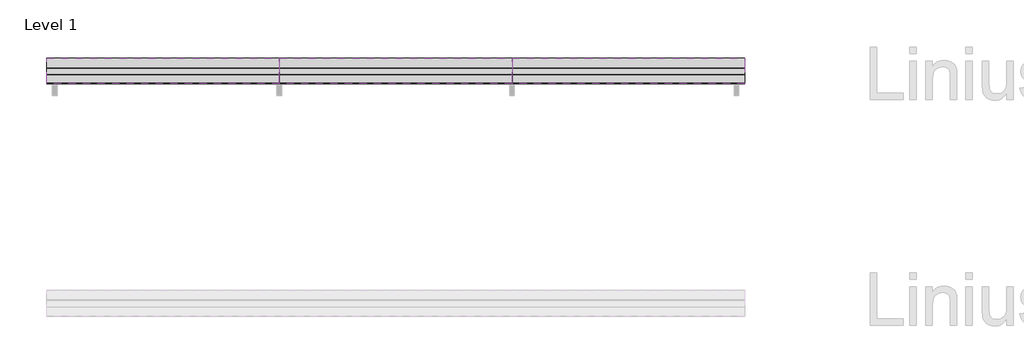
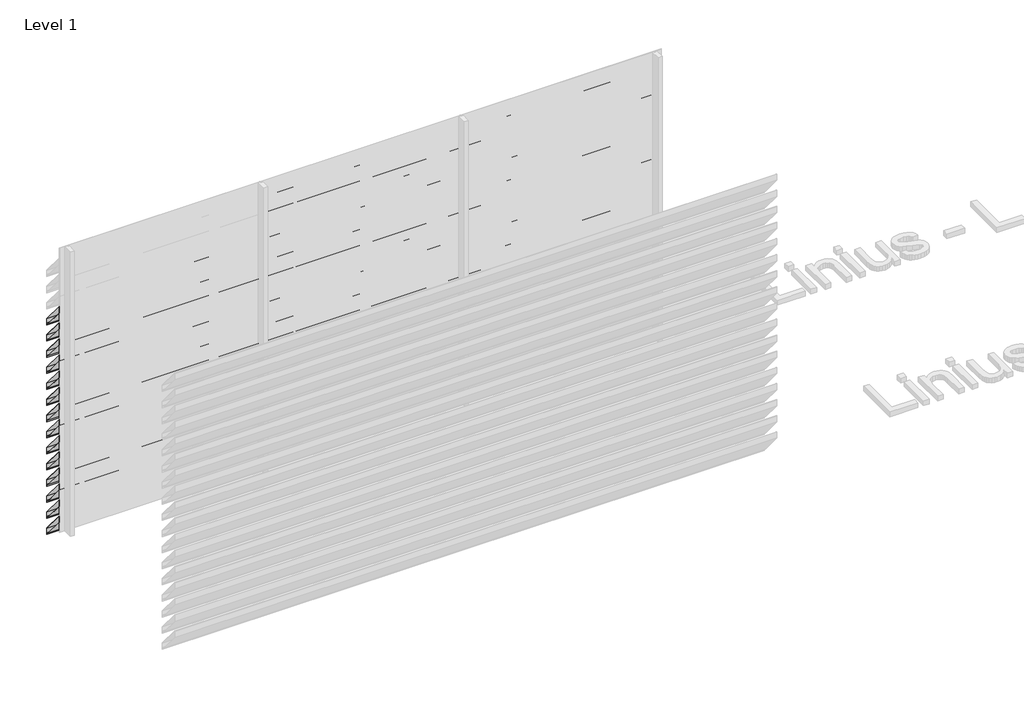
# One storey, part 17 of 121: 48 proxies.
"""IFC4 building model written with IfcOpenShell, lengths in millimetres."""

from ifc_helpers import new_model, si_unit, frame, origin, place, context, project, spatial, polyline, outline, extrude, element, save

model = new_model("IFC4")

# Units and contexts
model_context = context("Model", 3, world=origin())
ifc_project = project(units=[si_unit("LENGTHUNIT", "METRE", prefix="MILLI")], contexts=[model_context])

# Site, building, storey
site = spatial("IfcSite", under=ifc_project)
building = spatial("IfcBuilding", under=site)
storey = spatial("IfcBuildingStorey", under=building, Name="Level 1", Elevation=0.0)

# Proxies
placement = place(None, origin())
element("IfcBuildingElementProxy", 1, Name="Wall Sweeps", at=placement, inside=storey, context=model_context, shape_type="SweptSolid", body=[
    extrude(outline(polyline([(29205.0540136, 2121.0), (29205.0540136, 2052.0), (29202.5540136, 2053.1657691), (29202.5540136, 2066.7059843), (29185.8041465, 2086.6676986), (29175.1189071, 2086.6676986), (28983.0540136, 2315.5617253), (28983.0540136, 2380.0), (28987.7272091, 2380.0), (29205.0540136, 2121.0)]), holes=[polyline([(28986.8412246, 2378.1), (28984.9540136, 2378.1), (28984.9540136, 2316.2532688), (29176.0048916, 2088.5676986), (29186.6901311, 2088.5676986), (29203.1540136, 2068.9468074), (29203.1540136, 2120.3084566), (28986.8412246, 2378.1)])]), frame((466.6208097, 0.0, 0.0), z_axis=(1.0, 0.0, 0.0), x_axis=(0.0, 1.0, 0.0)), (0.0, 0.0, 1.0), 2000.0),
])
element("IfcBuildingElementProxy", 2, Name="Wall Sweeps", at=placement, inside=storey, context=model_context, shape_type="SweptSolid", body=[
    extrude(outline(polyline([(29205.0540136, 1951.0), (29205.0540136, 1882.0), (29202.5540136, 1883.1657691), (29202.5540136, 1896.7059843), (29185.8041465, 1916.6676986), (29175.1189071, 1916.6676986), (28983.0540136, 2145.5617253), (28983.0540136, 2210.0), (28987.7272091, 2210.0), (29205.0540136, 1951.0)]), holes=[polyline([(28986.8412246, 2208.1), (28984.9540136, 2208.1), (28984.9540136, 2146.2532688), (29176.0048916, 1918.5676986), (29186.6901311, 1918.5676986), (29203.1540136, 1898.9468074), (29203.1540136, 1950.3084566), (28986.8412246, 2208.1)])]), frame((466.6208097, 0.0, 0.0), z_axis=(1.0, 0.0, 0.0), x_axis=(0.0, 1.0, 0.0)), (0.0, 0.0, 1.0), 2000.0),
])
element("IfcBuildingElementProxy", 3, Name="Wall Sweeps", at=placement, inside=storey, context=model_context, shape_type="SweptSolid", body=[
    extrude(outline(polyline([(29205.0540136, 1781.0), (29205.0540136, 1712.0), (29202.5540136, 1713.1657691), (29202.5540136, 1726.7059843), (29185.8041465, 1746.6676986), (29175.1189071, 1746.6676986), (28983.0540136, 1975.5617253), (28983.0540136, 2040.0), (28987.7272091, 2040.0), (29205.0540136, 1781.0)]), holes=[polyline([(28986.8412246, 2038.1), (28984.9540136, 2038.1), (28984.9540136, 1976.2532688), (29176.0048916, 1748.5676986), (29186.6901311, 1748.5676986), (29203.1540136, 1728.9468074), (29203.1540136, 1780.3084566), (28986.8412246, 2038.1)])]), frame((466.6208097, 0.0, 0.0), z_axis=(1.0, 0.0, 0.0), x_axis=(0.0, 1.0, 0.0)), (0.0, 0.0, 1.0), 2000.0),
])
element("IfcBuildingElementProxy", 4, Name="Wall Sweeps", at=placement, inside=storey, context=model_context, shape_type="SweptSolid", body=[
    extrude(outline(polyline([(29205.0540136, 1611.0), (29205.0540136, 1542.0), (29202.5540136, 1543.1657691), (29202.5540136, 1556.7059843), (29185.8041465, 1576.6676986), (29175.1189071, 1576.6676986), (28983.0540136, 1805.5617253), (28983.0540136, 1870.0), (28987.7272091, 1870.0), (29205.0540136, 1611.0)]), holes=[polyline([(28986.8412246, 1868.1), (28984.9540136, 1868.1), (28984.9540136, 1806.2532688), (29176.0048916, 1578.5676986), (29186.6901311, 1578.5676986), (29203.1540136, 1558.9468074), (29203.1540136, 1610.3084566), (28986.8412246, 1868.1)])]), frame((466.6208097, 0.0, 0.0), z_axis=(1.0, 0.0, 0.0), x_axis=(0.0, 1.0, 0.0)), (0.0, 0.0, 1.0), 2000.0),
])
element("IfcBuildingElementProxy", 5, Name="Wall Sweeps", at=placement, inside=storey, context=model_context, shape_type="SweptSolid", body=[
    extrude(outline(polyline([(29205.0540136, 1441.0), (29205.0540136, 1372.0), (29202.5540136, 1373.1657691), (29202.5540136, 1386.7059843), (29185.8041465, 1406.6676986), (29175.1189071, 1406.6676986), (28983.0540136, 1635.5617253), (28983.0540136, 1700.0), (28987.7272091, 1700.0), (29205.0540136, 1441.0)]), holes=[polyline([(28986.8412246, 1698.1), (28984.9540136, 1698.1), (28984.9540136, 1636.2532688), (29176.0048916, 1408.5676986), (29186.6901311, 1408.5676986), (29203.1540136, 1388.9468074), (29203.1540136, 1440.3084566), (28986.8412246, 1698.1)])]), frame((466.6208097, 0.0, 0.0), z_axis=(1.0, 0.0, 0.0), x_axis=(0.0, 1.0, 0.0)), (0.0, 0.0, 1.0), 2000.0),
])
element("IfcBuildingElementProxy", 6, Name="Wall Sweeps", at=placement, inside=storey, context=model_context, shape_type="SweptSolid", body=[
    extrude(outline(polyline([(29205.0540136, 1271.0), (29205.0540136, 1202.0), (29202.5540136, 1203.1657691), (29202.5540136, 1216.7059843), (29185.8041465, 1236.6676986), (29175.1189071, 1236.6676986), (28983.0540136, 1465.5617253), (28983.0540136, 1530.0), (28987.7272091, 1530.0), (29205.0540136, 1271.0)]), holes=[polyline([(28986.8412246, 1528.1), (28984.9540136, 1528.1), (28984.9540136, 1466.2532688), (29176.0048916, 1238.5676986), (29186.6901311, 1238.5676986), (29203.1540136, 1218.9468074), (29203.1540136, 1270.3084566), (28986.8412246, 1528.1)])]), frame((466.6208097, 0.0, 0.0), z_axis=(1.0, 0.0, 0.0), x_axis=(0.0, 1.0, 0.0)), (0.0, 0.0, 1.0), 2000.0),
])
element("IfcBuildingElementProxy", 7, Name="Wall Sweeps", at=placement, inside=storey, context=model_context, shape_type="SweptSolid", body=[
    extrude(outline(polyline([(29205.0540136, 1101.0), (29205.0540136, 1032.0), (29202.5540136, 1033.1657691), (29202.5540136, 1046.7059843), (29185.8041465, 1066.6676986), (29175.1189071, 1066.6676986), (28983.0540136, 1295.5617253), (28983.0540136, 1360.0), (28987.7272091, 1360.0), (29205.0540136, 1101.0)]), holes=[polyline([(28986.8412246, 1358.1), (28984.9540136, 1358.1), (28984.9540136, 1296.2532688), (29176.0048916, 1068.5676986), (29186.6901311, 1068.5676986), (29203.1540136, 1048.9468074), (29203.1540136, 1100.3084566), (28986.8412246, 1358.1)])]), frame((466.6208097, 0.0, 0.0), z_axis=(1.0, 0.0, 0.0), x_axis=(0.0, 1.0, 0.0)), (0.0, 0.0, 1.0), 2000.0),
])
element("IfcBuildingElementProxy", 8, Name="Wall Sweeps", at=placement, inside=storey, context=model_context, shape_type="SweptSolid", body=[
    extrude(outline(polyline([(29205.0540136, 931.0), (29205.0540136, 862.0), (29202.5540136, 863.1657691), (29202.5540136, 876.7059843), (29185.8041465, 896.6676986), (29175.1189071, 896.6676986), (28983.0540136, 1125.5617253), (28983.0540136, 1190.0), (28987.7272091, 1190.0), (29205.0540136, 931.0)]), holes=[polyline([(28986.8412246, 1188.1), (28984.9540136, 1188.1), (28984.9540136, 1126.2532688), (29176.0048916, 898.5676986), (29186.6901311, 898.5676986), (29203.1540136, 878.9468074), (29203.1540136, 930.3084566), (28986.8412246, 1188.1)])]), frame((466.6208097, 0.0, 0.0), z_axis=(1.0, 0.0, 0.0), x_axis=(0.0, 1.0, 0.0)), (0.0, 0.0, 1.0), 2000.0),
])
element("IfcBuildingElementProxy", 9, Name="Wall Sweeps", at=placement, inside=storey, context=model_context, shape_type="SweptSolid", body=[
    extrude(outline(polyline([(29205.0540136, 761.0), (29205.0540136, 692.0), (29202.5540136, 693.1657691), (29202.5540136, 706.7059843), (29185.8041465, 726.6676986), (29175.1189071, 726.6676986), (28983.0540136, 955.5617253), (28983.0540136, 1020.0), (28987.7272091, 1020.0), (29205.0540136, 761.0)]), holes=[polyline([(28986.8412246, 1018.1), (28984.9540136, 1018.1), (28984.9540136, 956.2532688), (29176.0048916, 728.5676986), (29186.6901311, 728.5676986), (29203.1540136, 708.9468074), (29203.1540136, 760.3084566), (28986.8412246, 1018.1)])]), frame((466.6208097, 0.0, 0.0), z_axis=(1.0, 0.0, 0.0), x_axis=(0.0, 1.0, 0.0)), (0.0, 0.0, 1.0), 2000.0),
])
element("IfcBuildingElementProxy", 10, Name="Wall Sweeps", at=placement, inside=storey, context=model_context, shape_type="SweptSolid", body=[
    extrude(outline(polyline([(29205.0540136, 591.0), (29205.0540136, 522.0), (29202.5540136, 523.1657691), (29202.5540136, 536.7059843), (29185.8041465, 556.6676986), (29175.1189071, 556.6676986), (28983.0540136, 785.5617253), (28983.0540136, 850.0), (28987.7272091, 850.0), (29205.0540136, 591.0)]), holes=[polyline([(28986.8412246, 848.1), (28984.9540136, 848.1), (28984.9540136, 786.2532688), (29176.0048916, 558.5676986), (29186.6901311, 558.5676986), (29203.1540136, 538.9468074), (29203.1540136, 590.3084566), (28986.8412246, 848.1)])]), frame((466.6208097, 0.0, 0.0), z_axis=(1.0, 0.0, 0.0), x_axis=(0.0, 1.0, 0.0)), (0.0, 0.0, 1.0), 2000.0),
])
element("IfcBuildingElementProxy", 11, Name="Wall Sweeps", at=placement, inside=storey, context=model_context, shape_type="SweptSolid", body=[
    extrude(outline(polyline([(29205.0540136, 421.0), (29205.0540136, 352.0), (29202.5540136, 353.1657691), (29202.5540136, 366.7059843), (29185.8041465, 386.6676986), (29175.1189071, 386.6676986), (28983.0540136, 615.5617253), (28983.0540136, 680.0), (28987.7272091, 680.0), (29205.0540136, 421.0)]), holes=[polyline([(28986.8412246, 678.1), (28984.9540136, 678.1), (28984.9540136, 616.2532688), (29176.0048916, 388.5676986), (29186.6901311, 388.5676986), (29203.1540136, 368.9468074), (29203.1540136, 420.3084566), (28986.8412246, 678.1)])]), frame((466.6208097, 0.0, 0.0), z_axis=(1.0, 0.0, 0.0), x_axis=(0.0, 1.0, 0.0)), (0.0, 0.0, 1.0), 2000.0),
])
element("IfcBuildingElementProxy", 12, Name="Wall Sweeps", at=placement, inside=storey, context=model_context, shape_type="SweptSolid", body=[
    extrude(outline(polyline([(29205.0540136, 251.0), (29205.0540136, 182.0), (29202.5540136, 183.1657691), (29202.5540136, 196.7059843), (29185.8041465, 216.6676986), (29175.1189071, 216.6676986), (28983.0540136, 445.5617253), (28983.0540136, 510.0), (28987.7272091, 510.0), (29205.0540136, 251.0)]), holes=[polyline([(28986.8412246, 508.1), (28984.9540136, 508.1), (28984.9540136, 446.2532688), (29176.0048916, 218.5676986), (29186.6901311, 218.5676986), (29203.1540136, 198.9468074), (29203.1540136, 250.3084566), (28986.8412246, 508.1)])]), frame((466.6208097, 0.0, 0.0), z_axis=(1.0, 0.0, 0.0), x_axis=(0.0, 1.0, 0.0)), (0.0, 0.0, 1.0), 2000.0),
])
element("IfcBuildingElementProxy", 13, Name="Wall Sweeps", at=placement, inside=storey, context=model_context, shape_type="SweptSolid", body=[
    extrude(outline(polyline([(29205.0540136, 81.0), (29205.0540136, 12.0), (29202.5540136, 13.1657691), (29202.5540136, 26.7059843), (29185.8041465, 46.6676986), (29175.1189071, 46.6676986), (28983.0540136, 275.5617253), (28983.0540136, 340.0), (28987.7272091, 340.0), (29205.0540136, 81.0)]), holes=[polyline([(28986.8412246, 338.1), (28984.9540136, 338.1), (28984.9540136, 276.2532688), (29176.0048916, 48.5676986), (29186.6901311, 48.5676986), (29203.1540136, 28.9468074), (29203.1540136, 80.3084566), (28986.8412246, 338.1)])]), frame((466.6208097, 0.0, 0.0), z_axis=(1.0, 0.0, 0.0), x_axis=(0.0, 1.0, 0.0)), (0.0, 0.0, 1.0), 2000.0),
])
element("IfcBuildingElementProxy", 14, Name="Wall Sweeps", at=placement, inside=storey, context=model_context, shape_type="SweptSolid", body=[
    extrude(outline(polyline([(29205.0540136, -89.0), (29205.0540136, -158.0), (29202.5540136, -156.8342309), (29202.5540136, -143.2940157), (29185.8041465, -123.3323014), (29175.1189071, -123.3323014), (28983.0540136, 105.5617253), (28983.0540136, 170.0), (28987.7272091, 170.0), (29205.0540136, -89.0)]), holes=[polyline([(28986.8412246, 168.1), (28984.9540136, 168.1), (28984.9540136, 106.2532688), (29176.0048916, -121.4323014), (29186.6901311, -121.4323014), (29203.1540136, -141.0531926), (29203.1540136, -89.6915434), (28986.8412246, 168.1)])]), frame((466.6208097, 0.0, 0.0), z_axis=(1.0, 0.0, 0.0), x_axis=(0.0, 1.0, 0.0)), (0.0, 0.0, 1.0), 2000.0),
])
element("IfcBuildingElementProxy", 15, Name="Wall Sweeps", at=placement, inside=storey, context=model_context, shape_type="SweptSolid", body=[
    extrude(outline(polyline([(29205.0540136, 2631.0), (29205.0540136, 2562.0), (29202.5540136, 2563.1657691), (29202.5540136, 2576.7059843), (29185.8041465, 2596.6676986), (29175.1189071, 2596.6676986), (28983.0540136, 2825.5617253), (28983.0540136, 2890.0), (28987.7272091, 2890.0), (29205.0540136, 2631.0)]), holes=[polyline([(28986.8412246, 2888.1), (28984.9540136, 2888.1), (28984.9540136, 2826.2532688), (29176.0048916, 2598.5676986), (29186.6901311, 2598.5676986), (29203.1540136, 2578.9468074), (29203.1540136, 2630.3084566), (28986.8412246, 2888.1)])]), frame((2466.6208097, 0.0, 0.0), z_axis=(1.0, 0.0, 0.0), x_axis=(0.0, 1.0, 0.0)), (0.0, 0.0, 1.0), 2000.0),
])
element("IfcBuildingElementProxy", 16, Name="Wall Sweeps", at=placement, inside=storey, context=model_context, shape_type="SweptSolid", body=[
    extrude(outline(polyline([(29205.0540136, 2461.0), (29205.0540136, 2392.0), (29202.5540136, 2393.1657691), (29202.5540136, 2406.7059843), (29185.8041465, 2426.6676986), (29175.1189071, 2426.6676986), (28983.0540136, 2655.5617253), (28983.0540136, 2720.0), (28987.7272091, 2720.0), (29205.0540136, 2461.0)]), holes=[polyline([(28986.8412246, 2718.1), (28984.9540136, 2718.1), (28984.9540136, 2656.2532688), (29176.0048916, 2428.5676986), (29186.6901311, 2428.5676986), (29203.1540136, 2408.9468074), (29203.1540136, 2460.3084566), (28986.8412246, 2718.1)])]), frame((2466.6208097, 0.0, 0.0), z_axis=(1.0, 0.0, 0.0), x_axis=(0.0, 1.0, 0.0)), (0.0, 0.0, 1.0), 2000.0),
])
element("IfcBuildingElementProxy", 17, Name="Wall Sweeps", at=placement, inside=storey, context=model_context, shape_type="SweptSolid", body=[
    extrude(outline(polyline([(29205.0540136, 2291.0), (29205.0540136, 2222.0), (29202.5540136, 2223.1657691), (29202.5540136, 2236.7059843), (29185.8041465, 2256.6676986), (29175.1189071, 2256.6676986), (28983.0540136, 2485.5617253), (28983.0540136, 2550.0), (28987.7272091, 2550.0), (29205.0540136, 2291.0)]), holes=[polyline([(28986.8412246, 2548.1), (28984.9540136, 2548.1), (28984.9540136, 2486.2532688), (29176.0048916, 2258.5676986), (29186.6901311, 2258.5676986), (29203.1540136, 2238.9468074), (29203.1540136, 2290.3084566), (28986.8412246, 2548.1)])]), frame((2466.6208097, 0.0, 0.0), z_axis=(1.0, 0.0, 0.0), x_axis=(0.0, 1.0, 0.0)), (0.0, 0.0, 1.0), 2000.0),
])
element("IfcBuildingElementProxy", 18, Name="Wall Sweeps", at=placement, inside=storey, context=model_context, shape_type="SweptSolid", body=[
    extrude(outline(polyline([(29205.0540136, 2121.0), (29205.0540136, 2052.0), (29202.5540136, 2053.1657691), (29202.5540136, 2066.7059843), (29185.8041465, 2086.6676986), (29175.1189071, 2086.6676986), (28983.0540136, 2315.5617253), (28983.0540136, 2380.0), (28987.7272091, 2380.0), (29205.0540136, 2121.0)]), holes=[polyline([(28986.8412246, 2378.1), (28984.9540136, 2378.1), (28984.9540136, 2316.2532688), (29176.0048916, 2088.5676986), (29186.6901311, 2088.5676986), (29203.1540136, 2068.9468074), (29203.1540136, 2120.3084566), (28986.8412246, 2378.1)])]), frame((2466.6208097, 0.0, 0.0), z_axis=(1.0, 0.0, 0.0), x_axis=(0.0, 1.0, 0.0)), (0.0, 0.0, 1.0), 2000.0),
])
element("IfcBuildingElementProxy", 19, Name="Wall Sweeps", at=placement, inside=storey, context=model_context, shape_type="SweptSolid", body=[
    extrude(outline(polyline([(29205.0540136, 1951.0), (29205.0540136, 1882.0), (29202.5540136, 1883.1657691), (29202.5540136, 1896.7059843), (29185.8041465, 1916.6676986), (29175.1189071, 1916.6676986), (28983.0540136, 2145.5617253), (28983.0540136, 2210.0), (28987.7272091, 2210.0), (29205.0540136, 1951.0)]), holes=[polyline([(28986.8412246, 2208.1), (28984.9540136, 2208.1), (28984.9540136, 2146.2532688), (29176.0048916, 1918.5676986), (29186.6901311, 1918.5676986), (29203.1540136, 1898.9468074), (29203.1540136, 1950.3084566), (28986.8412246, 2208.1)])]), frame((2466.6208097, 0.0, 0.0), z_axis=(1.0, 0.0, 0.0), x_axis=(0.0, 1.0, 0.0)), (0.0, 0.0, 1.0), 2000.0),
])
element("IfcBuildingElementProxy", 20, Name="Wall Sweeps", at=placement, inside=storey, context=model_context, shape_type="SweptSolid", body=[
    extrude(outline(polyline([(29205.0540136, 1781.0), (29205.0540136, 1712.0), (29202.5540136, 1713.1657691), (29202.5540136, 1726.7059843), (29185.8041465, 1746.6676986), (29175.1189071, 1746.6676986), (28983.0540136, 1975.5617253), (28983.0540136, 2040.0), (28987.7272091, 2040.0), (29205.0540136, 1781.0)]), holes=[polyline([(28986.8412246, 2038.1), (28984.9540136, 2038.1), (28984.9540136, 1976.2532688), (29176.0048916, 1748.5676986), (29186.6901311, 1748.5676986), (29203.1540136, 1728.9468074), (29203.1540136, 1780.3084566), (28986.8412246, 2038.1)])]), frame((2466.6208097, 0.0, 0.0), z_axis=(1.0, 0.0, 0.0), x_axis=(0.0, 1.0, 0.0)), (0.0, 0.0, 1.0), 2000.0),
])
element("IfcBuildingElementProxy", 21, Name="Wall Sweeps", at=placement, inside=storey, context=model_context, shape_type="SweptSolid", body=[
    extrude(outline(polyline([(29205.0540136, 1611.0), (29205.0540136, 1542.0), (29202.5540136, 1543.1657691), (29202.5540136, 1556.7059843), (29185.8041465, 1576.6676986), (29175.1189071, 1576.6676986), (28983.0540136, 1805.5617253), (28983.0540136, 1870.0), (28987.7272091, 1870.0), (29205.0540136, 1611.0)]), holes=[polyline([(28986.8412246, 1868.1), (28984.9540136, 1868.1), (28984.9540136, 1806.2532688), (29176.0048916, 1578.5676986), (29186.6901311, 1578.5676986), (29203.1540136, 1558.9468074), (29203.1540136, 1610.3084566), (28986.8412246, 1868.1)])]), frame((2466.6208097, 0.0, 0.0), z_axis=(1.0, 0.0, 0.0), x_axis=(0.0, 1.0, 0.0)), (0.0, 0.0, 1.0), 2000.0),
])
element("IfcBuildingElementProxy", 22, Name="Wall Sweeps", at=placement, inside=storey, context=model_context, shape_type="SweptSolid", body=[
    extrude(outline(polyline([(29205.0540136, 1441.0), (29205.0540136, 1372.0), (29202.5540136, 1373.1657691), (29202.5540136, 1386.7059843), (29185.8041465, 1406.6676986), (29175.1189071, 1406.6676986), (28983.0540136, 1635.5617253), (28983.0540136, 1700.0), (28987.7272091, 1700.0), (29205.0540136, 1441.0)]), holes=[polyline([(28986.8412246, 1698.1), (28984.9540136, 1698.1), (28984.9540136, 1636.2532688), (29176.0048916, 1408.5676986), (29186.6901311, 1408.5676986), (29203.1540136, 1388.9468074), (29203.1540136, 1440.3084566), (28986.8412246, 1698.1)])]), frame((2466.6208097, 0.0, 0.0), z_axis=(1.0, 0.0, 0.0), x_axis=(0.0, 1.0, 0.0)), (0.0, 0.0, 1.0), 2000.0),
])
element("IfcBuildingElementProxy", 23, Name="Wall Sweeps", at=placement, inside=storey, context=model_context, shape_type="SweptSolid", body=[
    extrude(outline(polyline([(29205.0540136, 1271.0), (29205.0540136, 1202.0), (29202.5540136, 1203.1657691), (29202.5540136, 1216.7059843), (29185.8041465, 1236.6676986), (29175.1189071, 1236.6676986), (28983.0540136, 1465.5617253), (28983.0540136, 1530.0), (28987.7272091, 1530.0), (29205.0540136, 1271.0)]), holes=[polyline([(28986.8412246, 1528.1), (28984.9540136, 1528.1), (28984.9540136, 1466.2532688), (29176.0048916, 1238.5676986), (29186.6901311, 1238.5676986), (29203.1540136, 1218.9468074), (29203.1540136, 1270.3084566), (28986.8412246, 1528.1)])]), frame((2466.6208097, 0.0, 0.0), z_axis=(1.0, 0.0, 0.0), x_axis=(0.0, 1.0, 0.0)), (0.0, 0.0, 1.0), 2000.0),
])
element("IfcBuildingElementProxy", 24, Name="Wall Sweeps", at=placement, inside=storey, context=model_context, shape_type="SweptSolid", body=[
    extrude(outline(polyline([(29205.0540136, 1101.0), (29205.0540136, 1032.0), (29202.5540136, 1033.1657691), (29202.5540136, 1046.7059843), (29185.8041465, 1066.6676986), (29175.1189071, 1066.6676986), (28983.0540136, 1295.5617253), (28983.0540136, 1360.0), (28987.7272091, 1360.0), (29205.0540136, 1101.0)]), holes=[polyline([(28986.8412246, 1358.1), (28984.9540136, 1358.1), (28984.9540136, 1296.2532688), (29176.0048916, 1068.5676986), (29186.6901311, 1068.5676986), (29203.1540136, 1048.9468074), (29203.1540136, 1100.3084566), (28986.8412246, 1358.1)])]), frame((2466.6208097, 0.0, 0.0), z_axis=(1.0, 0.0, 0.0), x_axis=(0.0, 1.0, 0.0)), (0.0, 0.0, 1.0), 2000.0),
])
element("IfcBuildingElementProxy", 25, Name="Wall Sweeps", at=placement, inside=storey, context=model_context, shape_type="SweptSolid", body=[
    extrude(outline(polyline([(29205.0540136, 931.0), (29205.0540136, 862.0), (29202.5540136, 863.1657691), (29202.5540136, 876.7059843), (29185.8041465, 896.6676986), (29175.1189071, 896.6676986), (28983.0540136, 1125.5617253), (28983.0540136, 1190.0), (28987.7272091, 1190.0), (29205.0540136, 931.0)]), holes=[polyline([(28986.8412246, 1188.1), (28984.9540136, 1188.1), (28984.9540136, 1126.2532688), (29176.0048916, 898.5676986), (29186.6901311, 898.5676986), (29203.1540136, 878.9468074), (29203.1540136, 930.3084566), (28986.8412246, 1188.1)])]), frame((2466.6208097, 0.0, 0.0), z_axis=(1.0, 0.0, 0.0), x_axis=(0.0, 1.0, 0.0)), (0.0, 0.0, 1.0), 2000.0),
])
element("IfcBuildingElementProxy", 26, Name="Wall Sweeps", at=placement, inside=storey, context=model_context, shape_type="SweptSolid", body=[
    extrude(outline(polyline([(29205.0540136, 761.0), (29205.0540136, 692.0), (29202.5540136, 693.1657691), (29202.5540136, 706.7059843), (29185.8041465, 726.6676986), (29175.1189071, 726.6676986), (28983.0540136, 955.5617253), (28983.0540136, 1020.0), (28987.7272091, 1020.0), (29205.0540136, 761.0)]), holes=[polyline([(28986.8412246, 1018.1), (28984.9540136, 1018.1), (28984.9540136, 956.2532688), (29176.0048916, 728.5676986), (29186.6901311, 728.5676986), (29203.1540136, 708.9468074), (29203.1540136, 760.3084566), (28986.8412246, 1018.1)])]), frame((2466.6208097, 0.0, 0.0), z_axis=(1.0, 0.0, 0.0), x_axis=(0.0, 1.0, 0.0)), (0.0, 0.0, 1.0), 2000.0),
])
element("IfcBuildingElementProxy", 27, Name="Wall Sweeps", at=placement, inside=storey, context=model_context, shape_type="SweptSolid", body=[
    extrude(outline(polyline([(29205.0540136, 591.0), (29205.0540136, 522.0), (29202.5540136, 523.1657691), (29202.5540136, 536.7059843), (29185.8041465, 556.6676986), (29175.1189071, 556.6676986), (28983.0540136, 785.5617253), (28983.0540136, 850.0), (28987.7272091, 850.0), (29205.0540136, 591.0)]), holes=[polyline([(28986.8412246, 848.1), (28984.9540136, 848.1), (28984.9540136, 786.2532688), (29176.0048916, 558.5676986), (29186.6901311, 558.5676986), (29203.1540136, 538.9468074), (29203.1540136, 590.3084566), (28986.8412246, 848.1)])]), frame((2466.6208097, 0.0, 0.0), z_axis=(1.0, 0.0, 0.0), x_axis=(0.0, 1.0, 0.0)), (0.0, 0.0, 1.0), 2000.0),
])
element("IfcBuildingElementProxy", 28, Name="Wall Sweeps", at=placement, inside=storey, context=model_context, shape_type="SweptSolid", body=[
    extrude(outline(polyline([(29205.0540136, 421.0), (29205.0540136, 352.0), (29202.5540136, 353.1657691), (29202.5540136, 366.7059843), (29185.8041465, 386.6676986), (29175.1189071, 386.6676986), (28983.0540136, 615.5617253), (28983.0540136, 680.0), (28987.7272091, 680.0), (29205.0540136, 421.0)]), holes=[polyline([(28986.8412246, 678.1), (28984.9540136, 678.1), (28984.9540136, 616.2532688), (29176.0048916, 388.5676986), (29186.6901311, 388.5676986), (29203.1540136, 368.9468074), (29203.1540136, 420.3084566), (28986.8412246, 678.1)])]), frame((2466.6208097, 0.0, 0.0), z_axis=(1.0, 0.0, 0.0), x_axis=(0.0, 1.0, 0.0)), (0.0, 0.0, 1.0), 2000.0),
])
element("IfcBuildingElementProxy", 29, Name="Wall Sweeps", at=placement, inside=storey, context=model_context, shape_type="SweptSolid", body=[
    extrude(outline(polyline([(29205.0540136, 251.0), (29205.0540136, 182.0), (29202.5540136, 183.1657691), (29202.5540136, 196.7059843), (29185.8041465, 216.6676986), (29175.1189071, 216.6676986), (28983.0540136, 445.5617253), (28983.0540136, 510.0), (28987.7272091, 510.0), (29205.0540136, 251.0)]), holes=[polyline([(28986.8412246, 508.1), (28984.9540136, 508.1), (28984.9540136, 446.2532688), (29176.0048916, 218.5676986), (29186.6901311, 218.5676986), (29203.1540136, 198.9468074), (29203.1540136, 250.3084566), (28986.8412246, 508.1)])]), frame((2466.6208097, 0.0, 0.0), z_axis=(1.0, 0.0, 0.0), x_axis=(0.0, 1.0, 0.0)), (0.0, 0.0, 1.0), 2000.0),
])
element("IfcBuildingElementProxy", 30, Name="Wall Sweeps", at=placement, inside=storey, context=model_context, shape_type="SweptSolid", body=[
    extrude(outline(polyline([(29205.0540136, 81.0), (29205.0540136, 12.0), (29202.5540136, 13.1657691), (29202.5540136, 26.7059843), (29185.8041465, 46.6676986), (29175.1189071, 46.6676986), (28983.0540136, 275.5617253), (28983.0540136, 340.0), (28987.7272091, 340.0), (29205.0540136, 81.0)]), holes=[polyline([(28986.8412246, 338.1), (28984.9540136, 338.1), (28984.9540136, 276.2532688), (29176.0048916, 48.5676986), (29186.6901311, 48.5676986), (29203.1540136, 28.9468074), (29203.1540136, 80.3084566), (28986.8412246, 338.1)])]), frame((2466.6208097, 0.0, 0.0), z_axis=(1.0, 0.0, 0.0), x_axis=(0.0, 1.0, 0.0)), (0.0, 0.0, 1.0), 2000.0),
])
element("IfcBuildingElementProxy", 31, Name="Wall Sweeps", at=placement, inside=storey, context=model_context, shape_type="SweptSolid", body=[
    extrude(outline(polyline([(29205.0540136, -89.0), (29205.0540136, -158.0), (29202.5540136, -156.8342309), (29202.5540136, -143.2940157), (29185.8041465, -123.3323014), (29175.1189071, -123.3323014), (28983.0540136, 105.5617253), (28983.0540136, 170.0), (28987.7272091, 170.0), (29205.0540136, -89.0)]), holes=[polyline([(28986.8412246, 168.1), (28984.9540136, 168.1), (28984.9540136, 106.2532688), (29176.0048916, -121.4323014), (29186.6901311, -121.4323014), (29203.1540136, -141.0531926), (29203.1540136, -89.6915434), (28986.8412246, 168.1)])]), frame((2466.6208097, 0.0, 0.0), z_axis=(1.0, 0.0, 0.0), x_axis=(0.0, 1.0, 0.0)), (0.0, 0.0, 1.0), 2000.0),
])
element("IfcBuildingElementProxy", 32, Name="Wall Sweeps", at=placement, inside=storey, context=model_context, shape_type="SweptSolid", body=[
    extrude(outline(polyline([(29205.0540136, 2631.0), (29205.0540136, 2562.0), (29202.5540136, 2563.1657691), (29202.5540136, 2576.7059843), (29185.8041465, 2596.6676986), (29175.1189071, 2596.6676986), (28983.0540136, 2825.5617253), (28983.0540136, 2890.0), (28987.7272091, 2890.0), (29205.0540136, 2631.0)]), holes=[polyline([(28986.8412246, 2888.1), (28984.9540136, 2888.1), (28984.9540136, 2826.2532688), (29176.0048916, 2598.5676986), (29186.6901311, 2598.5676986), (29203.1540136, 2578.9468074), (29203.1540136, 2630.3084566), (28986.8412246, 2888.1)])]), frame((4466.6208097, 0.0, 0.0), z_axis=(1.0, 0.0, 0.0), x_axis=(0.0, 1.0, 0.0)), (0.0, 0.0, 1.0), 2000.0),
])
element("IfcBuildingElementProxy", 33, Name="Wall Sweeps", at=placement, inside=storey, context=model_context, shape_type="SweptSolid", body=[
    extrude(outline(polyline([(29205.0540136, 2461.0), (29205.0540136, 2392.0), (29202.5540136, 2393.1657691), (29202.5540136, 2406.7059843), (29185.8041465, 2426.6676986), (29175.1189071, 2426.6676986), (28983.0540136, 2655.5617253), (28983.0540136, 2720.0), (28987.7272091, 2720.0), (29205.0540136, 2461.0)]), holes=[polyline([(28986.8412246, 2718.1), (28984.9540136, 2718.1), (28984.9540136, 2656.2532688), (29176.0048916, 2428.5676986), (29186.6901311, 2428.5676986), (29203.1540136, 2408.9468074), (29203.1540136, 2460.3084566), (28986.8412246, 2718.1)])]), frame((4466.6208097, 0.0, 0.0), z_axis=(1.0, 0.0, 0.0), x_axis=(0.0, 1.0, 0.0)), (0.0, 0.0, 1.0), 2000.0),
])
element("IfcBuildingElementProxy", 34, Name="Wall Sweeps", at=placement, inside=storey, context=model_context, shape_type="SweptSolid", body=[
    extrude(outline(polyline([(29205.0540136, 2291.0), (29205.0540136, 2222.0), (29202.5540136, 2223.1657691), (29202.5540136, 2236.7059843), (29185.8041465, 2256.6676986), (29175.1189071, 2256.6676986), (28983.0540136, 2485.5617253), (28983.0540136, 2550.0), (28987.7272091, 2550.0), (29205.0540136, 2291.0)]), holes=[polyline([(28986.8412246, 2548.1), (28984.9540136, 2548.1), (28984.9540136, 2486.2532688), (29176.0048916, 2258.5676986), (29186.6901311, 2258.5676986), (29203.1540136, 2238.9468074), (29203.1540136, 2290.3084566), (28986.8412246, 2548.1)])]), frame((4466.6208097, 0.0, 0.0), z_axis=(1.0, 0.0, 0.0), x_axis=(0.0, 1.0, 0.0)), (0.0, 0.0, 1.0), 2000.0),
])
element("IfcBuildingElementProxy", 35, Name="Wall Sweeps", at=placement, inside=storey, context=model_context, shape_type="SweptSolid", body=[
    extrude(outline(polyline([(29205.0540136, 2121.0), (29205.0540136, 2052.0), (29202.5540136, 2053.1657691), (29202.5540136, 2066.7059843), (29185.8041465, 2086.6676986), (29175.1189071, 2086.6676986), (28983.0540136, 2315.5617253), (28983.0540136, 2380.0), (28987.7272091, 2380.0), (29205.0540136, 2121.0)]), holes=[polyline([(28986.8412246, 2378.1), (28984.9540136, 2378.1), (28984.9540136, 2316.2532688), (29176.0048916, 2088.5676986), (29186.6901311, 2088.5676986), (29203.1540136, 2068.9468074), (29203.1540136, 2120.3084566), (28986.8412246, 2378.1)])]), frame((4466.6208097, 0.0, 0.0), z_axis=(1.0, 0.0, 0.0), x_axis=(0.0, 1.0, 0.0)), (0.0, 0.0, 1.0), 2000.0),
])
element("IfcBuildingElementProxy", 36, Name="Wall Sweeps", at=placement, inside=storey, context=model_context, shape_type="SweptSolid", body=[
    extrude(outline(polyline([(29205.0540136, 1951.0), (29205.0540136, 1882.0), (29202.5540136, 1883.1657691), (29202.5540136, 1896.7059843), (29185.8041465, 1916.6676986), (29175.1189071, 1916.6676986), (28983.0540136, 2145.5617253), (28983.0540136, 2210.0), (28987.7272091, 2210.0), (29205.0540136, 1951.0)]), holes=[polyline([(28986.8412246, 2208.1), (28984.9540136, 2208.1), (28984.9540136, 2146.2532688), (29176.0048916, 1918.5676986), (29186.6901311, 1918.5676986), (29203.1540136, 1898.9468074), (29203.1540136, 1950.3084566), (28986.8412246, 2208.1)])]), frame((4466.6208097, 0.0, 0.0), z_axis=(1.0, 0.0, 0.0), x_axis=(0.0, 1.0, 0.0)), (0.0, 0.0, 1.0), 2000.0),
])
element("IfcBuildingElementProxy", 37, Name="Wall Sweeps", at=placement, inside=storey, context=model_context, shape_type="SweptSolid", body=[
    extrude(outline(polyline([(29205.0540136, 1781.0), (29205.0540136, 1712.0), (29202.5540136, 1713.1657691), (29202.5540136, 1726.7059843), (29185.8041465, 1746.6676986), (29175.1189071, 1746.6676986), (28983.0540136, 1975.5617253), (28983.0540136, 2040.0), (28987.7272091, 2040.0), (29205.0540136, 1781.0)]), holes=[polyline([(28986.8412246, 2038.1), (28984.9540136, 2038.1), (28984.9540136, 1976.2532688), (29176.0048916, 1748.5676986), (29186.6901311, 1748.5676986), (29203.1540136, 1728.9468074), (29203.1540136, 1780.3084566), (28986.8412246, 2038.1)])]), frame((4466.6208097, 0.0, 0.0), z_axis=(1.0, 0.0, 0.0), x_axis=(0.0, 1.0, 0.0)), (0.0, 0.0, 1.0), 2000.0),
])
element("IfcBuildingElementProxy", 38, Name="Wall Sweeps", at=placement, inside=storey, context=model_context, shape_type="SweptSolid", body=[
    extrude(outline(polyline([(29205.0540136, 1611.0), (29205.0540136, 1542.0), (29202.5540136, 1543.1657691), (29202.5540136, 1556.7059843), (29185.8041465, 1576.6676986), (29175.1189071, 1576.6676986), (28983.0540136, 1805.5617253), (28983.0540136, 1870.0), (28987.7272091, 1870.0), (29205.0540136, 1611.0)]), holes=[polyline([(28986.8412246, 1868.1), (28984.9540136, 1868.1), (28984.9540136, 1806.2532688), (29176.0048916, 1578.5676986), (29186.6901311, 1578.5676986), (29203.1540136, 1558.9468074), (29203.1540136, 1610.3084566), (28986.8412246, 1868.1)])]), frame((4466.6208097, 0.0, 0.0), z_axis=(1.0, 0.0, 0.0), x_axis=(0.0, 1.0, 0.0)), (0.0, 0.0, 1.0), 2000.0),
])
element("IfcBuildingElementProxy", 39, Name="Wall Sweeps", at=placement, inside=storey, context=model_context, shape_type="SweptSolid", body=[
    extrude(outline(polyline([(29205.0540136, 1441.0), (29205.0540136, 1372.0), (29202.5540136, 1373.1657691), (29202.5540136, 1386.7059843), (29185.8041465, 1406.6676986), (29175.1189071, 1406.6676986), (28983.0540136, 1635.5617253), (28983.0540136, 1700.0), (28987.7272091, 1700.0), (29205.0540136, 1441.0)]), holes=[polyline([(28986.8412246, 1698.1), (28984.9540136, 1698.1), (28984.9540136, 1636.2532688), (29176.0048916, 1408.5676986), (29186.6901311, 1408.5676986), (29203.1540136, 1388.9468074), (29203.1540136, 1440.3084566), (28986.8412246, 1698.1)])]), frame((4466.6208097, 0.0, 0.0), z_axis=(1.0, 0.0, 0.0), x_axis=(0.0, 1.0, 0.0)), (0.0, 0.0, 1.0), 2000.0),
])
element("IfcBuildingElementProxy", 40, Name="Wall Sweeps", at=placement, inside=storey, context=model_context, shape_type="SweptSolid", body=[
    extrude(outline(polyline([(29205.0540136, 1271.0), (29205.0540136, 1202.0), (29202.5540136, 1203.1657691), (29202.5540136, 1216.7059843), (29185.8041465, 1236.6676986), (29175.1189071, 1236.6676986), (28983.0540136, 1465.5617253), (28983.0540136, 1530.0), (28987.7272091, 1530.0), (29205.0540136, 1271.0)]), holes=[polyline([(28986.8412246, 1528.1), (28984.9540136, 1528.1), (28984.9540136, 1466.2532688), (29176.0048916, 1238.5676986), (29186.6901311, 1238.5676986), (29203.1540136, 1218.9468074), (29203.1540136, 1270.3084566), (28986.8412246, 1528.1)])]), frame((4466.6208097, 0.0, 0.0), z_axis=(1.0, 0.0, 0.0), x_axis=(0.0, 1.0, 0.0)), (0.0, 0.0, 1.0), 2000.0),
])
element("IfcBuildingElementProxy", 41, Name="Wall Sweeps", at=placement, inside=storey, context=model_context, shape_type="SweptSolid", body=[
    extrude(outline(polyline([(29205.0540136, 1101.0), (29205.0540136, 1032.0), (29202.5540136, 1033.1657691), (29202.5540136, 1046.7059843), (29185.8041465, 1066.6676986), (29175.1189071, 1066.6676986), (28983.0540136, 1295.5617253), (28983.0540136, 1360.0), (28987.7272091, 1360.0), (29205.0540136, 1101.0)]), holes=[polyline([(28986.8412246, 1358.1), (28984.9540136, 1358.1), (28984.9540136, 1296.2532688), (29176.0048916, 1068.5676986), (29186.6901311, 1068.5676986), (29203.1540136, 1048.9468074), (29203.1540136, 1100.3084566), (28986.8412246, 1358.1)])]), frame((4466.6208097, 0.0, 0.0), z_axis=(1.0, 0.0, 0.0), x_axis=(0.0, 1.0, 0.0)), (0.0, 0.0, 1.0), 2000.0),
])
element("IfcBuildingElementProxy", 42, Name="Wall Sweeps", at=placement, inside=storey, context=model_context, shape_type="SweptSolid", body=[
    extrude(outline(polyline([(29205.0540136, 931.0), (29205.0540136, 862.0), (29202.5540136, 863.1657691), (29202.5540136, 876.7059843), (29185.8041465, 896.6676986), (29175.1189071, 896.6676986), (28983.0540136, 1125.5617253), (28983.0540136, 1190.0), (28987.7272091, 1190.0), (29205.0540136, 931.0)]), holes=[polyline([(28986.8412246, 1188.1), (28984.9540136, 1188.1), (28984.9540136, 1126.2532688), (29176.0048916, 898.5676986), (29186.6901311, 898.5676986), (29203.1540136, 878.9468074), (29203.1540136, 930.3084566), (28986.8412246, 1188.1)])]), frame((4466.6208097, 0.0, 0.0), z_axis=(1.0, 0.0, 0.0), x_axis=(0.0, 1.0, 0.0)), (0.0, 0.0, 1.0), 2000.0),
])
element("IfcBuildingElementProxy", 43, Name="Wall Sweeps", at=placement, inside=storey, context=model_context, shape_type="SweptSolid", body=[
    extrude(outline(polyline([(29205.0540136, 761.0), (29205.0540136, 692.0), (29202.5540136, 693.1657691), (29202.5540136, 706.7059843), (29185.8041465, 726.6676986), (29175.1189071, 726.6676986), (28983.0540136, 955.5617253), (28983.0540136, 1020.0), (28987.7272091, 1020.0), (29205.0540136, 761.0)]), holes=[polyline([(28986.8412246, 1018.1), (28984.9540136, 1018.1), (28984.9540136, 956.2532688), (29176.0048916, 728.5676986), (29186.6901311, 728.5676986), (29203.1540136, 708.9468074), (29203.1540136, 760.3084566), (28986.8412246, 1018.1)])]), frame((4466.6208097, 0.0, 0.0), z_axis=(1.0, 0.0, 0.0), x_axis=(0.0, 1.0, 0.0)), (0.0, 0.0, 1.0), 2000.0),
])
element("IfcBuildingElementProxy", 44, Name="Wall Sweeps", at=placement, inside=storey, context=model_context, shape_type="SweptSolid", body=[
    extrude(outline(polyline([(29205.0540136, 591.0), (29205.0540136, 522.0), (29202.5540136, 523.1657691), (29202.5540136, 536.7059843), (29185.8041465, 556.6676986), (29175.1189071, 556.6676986), (28983.0540136, 785.5617253), (28983.0540136, 850.0), (28987.7272091, 850.0), (29205.0540136, 591.0)]), holes=[polyline([(28986.8412246, 848.1), (28984.9540136, 848.1), (28984.9540136, 786.2532688), (29176.0048916, 558.5676986), (29186.6901311, 558.5676986), (29203.1540136, 538.9468074), (29203.1540136, 590.3084566), (28986.8412246, 848.1)])]), frame((4466.6208097, 0.0, 0.0), z_axis=(1.0, 0.0, 0.0), x_axis=(0.0, 1.0, 0.0)), (0.0, 0.0, 1.0), 2000.0),
])
element("IfcBuildingElementProxy", 45, Name="Wall Sweeps", at=placement, inside=storey, context=model_context, shape_type="SweptSolid", body=[
    extrude(outline(polyline([(29205.0540136, 421.0), (29205.0540136, 352.0), (29202.5540136, 353.1657691), (29202.5540136, 366.7059843), (29185.8041465, 386.6676986), (29175.1189071, 386.6676986), (28983.0540136, 615.5617253), (28983.0540136, 680.0), (28987.7272091, 680.0), (29205.0540136, 421.0)]), holes=[polyline([(28986.8412246, 678.1), (28984.9540136, 678.1), (28984.9540136, 616.2532688), (29176.0048916, 388.5676986), (29186.6901311, 388.5676986), (29203.1540136, 368.9468074), (29203.1540136, 420.3084566), (28986.8412246, 678.1)])]), frame((4466.6208097, 0.0, 0.0), z_axis=(1.0, 0.0, 0.0), x_axis=(0.0, 1.0, 0.0)), (0.0, 0.0, 1.0), 2000.0),
])
element("IfcBuildingElementProxy", 46, Name="Wall Sweeps", at=placement, inside=storey, context=model_context, shape_type="SweptSolid", body=[
    extrude(outline(polyline([(29205.0540136, 251.0), (29205.0540136, 182.0), (29202.5540136, 183.1657691), (29202.5540136, 196.7059843), (29185.8041465, 216.6676986), (29175.1189071, 216.6676986), (28983.0540136, 445.5617253), (28983.0540136, 510.0), (28987.7272091, 510.0), (29205.0540136, 251.0)]), holes=[polyline([(28986.8412246, 508.1), (28984.9540136, 508.1), (28984.9540136, 446.2532688), (29176.0048916, 218.5676986), (29186.6901311, 218.5676986), (29203.1540136, 198.9468074), (29203.1540136, 250.3084566), (28986.8412246, 508.1)])]), frame((4466.6208097, 0.0, 0.0), z_axis=(1.0, 0.0, 0.0), x_axis=(0.0, 1.0, 0.0)), (0.0, 0.0, 1.0), 2000.0),
])
element("IfcBuildingElementProxy", 47, Name="Wall Sweeps", at=placement, inside=storey, context=model_context, shape_type="SweptSolid", body=[
    extrude(outline(polyline([(29205.0540136, 81.0), (29205.0540136, 12.0), (29202.5540136, 13.1657691), (29202.5540136, 26.7059843), (29185.8041465, 46.6676986), (29175.1189071, 46.6676986), (28983.0540136, 275.5617253), (28983.0540136, 340.0), (28987.7272091, 340.0), (29205.0540136, 81.0)]), holes=[polyline([(28986.8412246, 338.1), (28984.9540136, 338.1), (28984.9540136, 276.2532688), (29176.0048916, 48.5676986), (29186.6901311, 48.5676986), (29203.1540136, 28.9468074), (29203.1540136, 80.3084566), (28986.8412246, 338.1)])]), frame((4466.6208097, 0.0, 0.0), z_axis=(1.0, 0.0, 0.0), x_axis=(0.0, 1.0, 0.0)), (0.0, 0.0, 1.0), 2000.0),
])
element("IfcBuildingElementProxy", 48, Name="Wall Sweeps", at=placement, inside=storey, context=model_context, shape_type="SweptSolid", body=[
    extrude(outline(polyline([(29205.0540136, -89.0), (29205.0540136, -158.0), (29202.5540136, -156.8342309), (29202.5540136, -143.2940157), (29185.8041465, -123.3323014), (29175.1189071, -123.3323014), (28983.0540136, 105.5617253), (28983.0540136, 170.0), (28987.7272091, 170.0), (29205.0540136, -89.0)]), holes=[polyline([(28986.8412246, 168.1), (28984.9540136, 168.1), (28984.9540136, 106.2532688), (29176.0048916, -121.4323014), (29186.6901311, -121.4323014), (29203.1540136, -141.0531926), (29203.1540136, -89.6915434), (28986.8412246, 168.1)])]), frame((4466.6208097, 0.0, 0.0), z_axis=(1.0, 0.0, 0.0), x_axis=(0.0, 1.0, 0.0)), (0.0, 0.0, 1.0), 2000.0),
])

save(model, "model.ifc")
